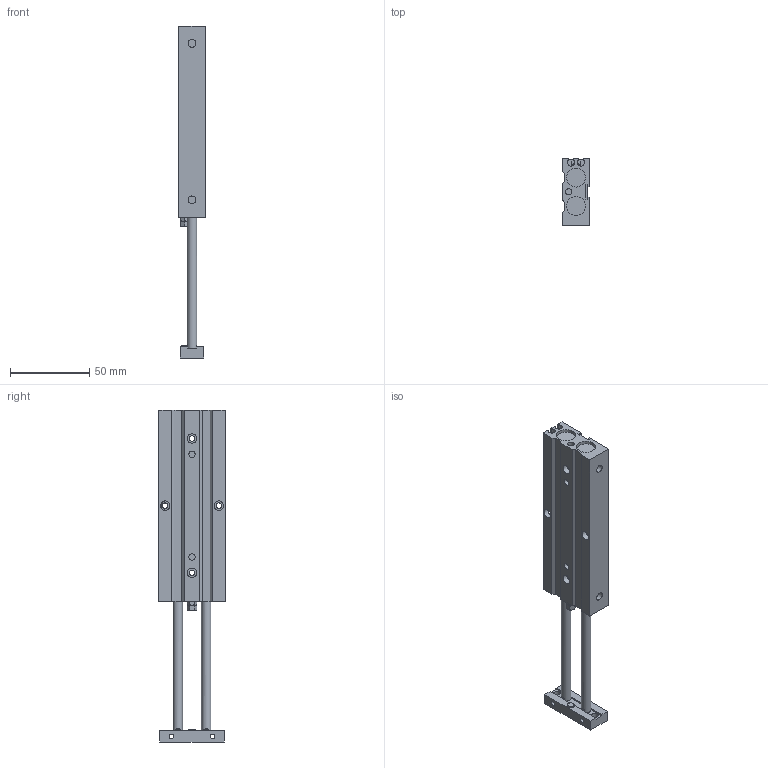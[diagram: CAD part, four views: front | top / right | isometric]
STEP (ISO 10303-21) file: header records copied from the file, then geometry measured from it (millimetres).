
FILE_DESCRIPTION((''),'2;1');
FILE_NAME('I:\3D電子目錄\氣缸\TD\TD10\TD10\TD10x75.stp','2007-08-06T09:34:54',('Administrator'),(''),'Autodesk Inventor 2008','Autodesk Inventor 2008','');
FILE_SCHEMA(('AUTOMOTIVE_DESIGN { 1 0 10303 214 1 1 1 1 }'));
Length unit declared in the file: millimetre
Products named in the file (1): TD10X75
Bounding box: 17 x 42 x 210 mm (x, y, z)
Volume: 83721 mm3; surface area: 26691.8 mm2
Topology: 1 solids, 3 shells, 153 faces, 377 edges, 246 vertices
Faces by surface type: plane 99, cylinder 32, bspline 13, cone 7, torus 2
Full cylindrical faces by diameter (mm): 3 x2, 3.5 x4, 4 x4, 4.011 x2, 5 x4, 6 x8, 7 x2, 12 x4
Entity records: 4542 total; most frequent: CARTESIAN_POINT 1135, DIRECTION 662, ORIENTED_EDGE 644, EDGE_CURVE 322, EDGE_LOOP 238, VERTEX_POINT 234, AXIS2_PLACEMENT_3D 229, VECTOR 204
